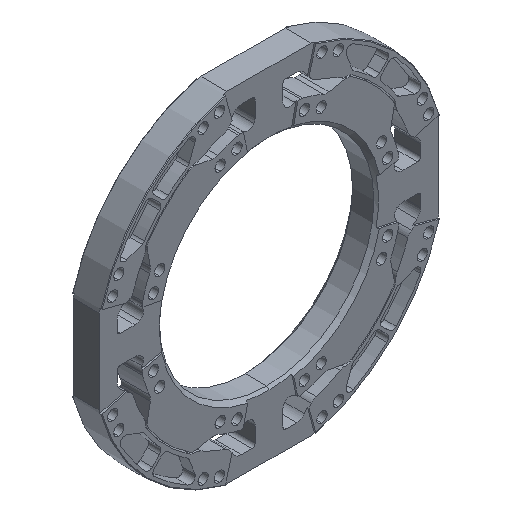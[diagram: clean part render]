
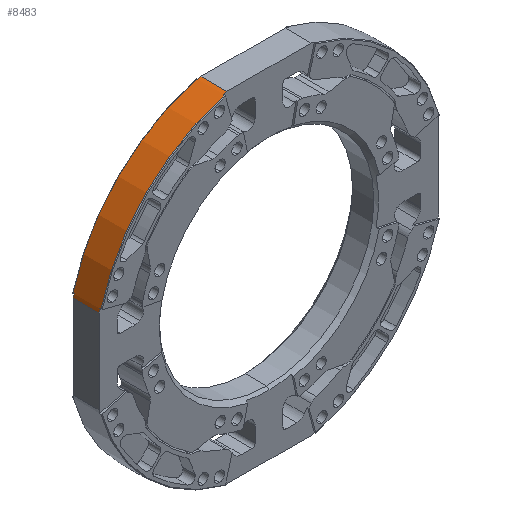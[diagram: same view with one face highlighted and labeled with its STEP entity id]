
A CAD part, isometric view. The second image highlights one B-rep face of the part: STEP entity #8483.
In plain terms, the highlighted cylindrical face has radius 136.843 mm (diameter 273.685 mm), a partial arc.
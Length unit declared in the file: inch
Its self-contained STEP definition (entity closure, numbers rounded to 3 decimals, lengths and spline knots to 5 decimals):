
#230 = EDGE_CURVE ( 'NONE', #1680, #5222, #15586, .T. ) ;
#355 = VERTEX_POINT ( 'NONE', #4550 ) ;
#647 = VECTOR ( 'NONE', #5046, 39.37008 ) ;
#918 = LINE ( 'NONE', #8887, #7667 ) ;
#1361 = DIRECTION ( 'NONE',  ( 0., -1., 0. ) ) ;
#1393 = EDGE_CURVE ( 'NONE', #355, #8562, #3419, .T. ) ;
#1463 = CARTESIAN_POINT ( 'NONE',  ( -5.20393, -0.4, 1.39439 ) ) ;
#1680 = VERTEX_POINT ( 'NONE', #2979 ) ;
#1818 = LINE ( 'NONE', #15151, #14067 ) ;
#2179 = CARTESIAN_POINT ( 'NONE',  ( -5.23, -0.4, 1.29316 ) ) ;
#2288 = FACE_OUTER_BOUND ( 'NONE', #13678, .T. ) ;
#2451 = VERTEX_POINT ( 'NONE', #15463 ) ;
#2626 = DIRECTION ( 'NONE',  ( 0., -1., 0. ) ) ;
#2772 = ORIENTED_EDGE ( 'NONE', *, *, #1393, .T. ) ;
#2875 = CARTESIAN_POINT ( 'NONE',  ( 0., 0., 0. ) ) ;
#2979 = CARTESIAN_POINT ( 'NONE',  ( -1.39439, 0.4, 5.20393 ) ) ;
#3062 = EDGE_CURVE ( 'NONE', #8899, #8741, #7721, .T. ) ;
#3244 = AXIS2_PLACEMENT_3D ( 'NONE', #5339, #12178, #17285 ) ;
#3419 = CIRCLE ( 'NONE', #3728, 5.3875 ) ;
#3461 = VERTEX_POINT ( 'NONE', #7616 ) ;
#3649 = AXIS2_PLACEMENT_3D ( 'NONE', #6803, #14777, #6988 ) ;
#3682 = CARTESIAN_POINT ( 'NONE',  ( -5.23, -0.45, 1.29316 ) ) ;
#3724 = CARTESIAN_POINT ( 'NONE',  ( 0., -0.43, 0. ) ) ;
#3728 = AXIS2_PLACEMENT_3D ( 'NONE', #9130, #3861, #6342 ) ;
#3861 = DIRECTION ( 'NONE',  ( 0., 1., 0. ) ) ;
#3898 = DIRECTION ( 'NONE',  ( 0., 0., -1. ) ) ;
#3993 = CIRCLE ( 'NONE', #6527, 5.3875 ) ;
#4011 = DIRECTION ( 'NONE',  ( 0., 0., -1. ) ) ;
#4208 = DIRECTION ( 'NONE',  ( 0., 0., -1. ) ) ;
#4307 = DIRECTION ( 'NONE',  ( 0., -1., 0. ) ) ;
#4438 = VERTEX_POINT ( 'NONE', #8071 ) ;
#4550 = CARTESIAN_POINT ( 'NONE',  ( -1.39439, -0.4, 5.20393 ) ) ;
#4583 = EDGE_CURVE ( 'NONE', #4956, #6486, #1818, .T. ) ;
#4820 = ORIENTED_EDGE ( 'NONE', *, *, #5767, .F. ) ;
#4956 = VERTEX_POINT ( 'NONE', #12680 ) ;
#4986 = ORIENTED_EDGE ( 'NONE', *, *, #11149, .T. ) ;
#5046 = DIRECTION ( 'NONE',  ( 0., 1., 0. ) ) ;
#5222 = VERTEX_POINT ( 'NONE', #5369 ) ;
#5261 = CARTESIAN_POINT ( 'NONE',  ( -1.29316, -0.4, 5.23 ) ) ;
#5339 = CARTESIAN_POINT ( 'NONE',  ( 0., 0.43, 0. ) ) ;
#5369 = CARTESIAN_POINT ( 'NONE',  ( -1.29316, 0.4, 5.23 ) ) ;
#5459 = VECTOR ( 'NONE', #14475, 39.37008 ) ;
#5767 = EDGE_CURVE ( 'NONE', #8741, #4956, #13849, .T. ) ;
#5822 = ORIENTED_EDGE ( 'NONE', *, *, #10495, .F. ) ;
#6186 = ORIENTED_EDGE ( 'NONE', *, *, #9419, .T. ) ;
#6342 = DIRECTION ( 'NONE',  ( 0., 0., -1. ) ) ;
#6380 = CARTESIAN_POINT ( 'NONE',  ( -1.29316, -0.45, 5.23 ) ) ;
#6457 = ORIENTED_EDGE ( 'NONE', *, *, #9646, .T. ) ;
#6486 = VERTEX_POINT ( 'NONE', #14243 ) ;
#6527 = AXIS2_PLACEMENT_3D ( 'NONE', #3724, #1361, #3898 ) ;
#6538 = LINE ( 'NONE', #6380, #647 ) ;
#6803 = CARTESIAN_POINT ( 'NONE',  ( 0., -0.4, 0. ) ) ;
#6988 = DIRECTION ( 'NONE',  ( 1., 0., 0. ) ) ;
#7313 = LINE ( 'NONE', #11243, #7406 ) ;
#7364 = DIRECTION ( 'NONE',  ( 1., 0., 0. ) ) ;
#7406 = VECTOR ( 'NONE', #4307, 39.37008 ) ;
#7616 = CARTESIAN_POINT ( 'NONE',  ( -5.20393, -0.4, 1.39439 ) ) ;
#7642 = CYLINDRICAL_SURFACE ( 'NONE', #9617, 5.3875 ) ;
#7667 = VECTOR ( 'NONE', #16608, 39.37008 ) ;
#7689 = ORIENTED_EDGE ( 'NONE', *, *, #4583, .F. ) ;
#7721 = LINE ( 'NONE', #3682, #5459 ) ;
#8071 = CARTESIAN_POINT ( 'NONE',  ( -1.39439, -0.43, 5.20393 ) ) ;
#8245 = CARTESIAN_POINT ( 'NONE',  ( 0., 0.4, 0. ) ) ;
#8483 = ADVANCED_FACE ( 'NONE', ( #2288 ), #7642, .T. ) ;
#8562 = VERTEX_POINT ( 'NONE', #5261 ) ;
#8581 = CARTESIAN_POINT ( 'NONE',  ( -5.23, 0.4, 1.29316 ) ) ;
#8741 = VERTEX_POINT ( 'NONE', #8581 ) ;
#8887 = CARTESIAN_POINT ( 'NONE',  ( -1.39439, 0.4, 5.20393 ) ) ;
#8899 = VERTEX_POINT ( 'NONE', #2179 ) ;
#8955 = VECTOR ( 'NONE', #16287, 39.37008 ) ;
#9130 = CARTESIAN_POINT ( 'NONE',  ( 0., -0.4, 0. ) ) ;
#9355 = EDGE_CURVE ( 'NONE', #4438, #9870, #3993, .T. ) ;
#9419 = EDGE_CURVE ( 'NONE', #8562, #5222, #6538, .T. ) ;
#9448 = ORIENTED_EDGE ( 'NONE', *, *, #230, .F. ) ;
#9617 = AXIS2_PLACEMENT_3D ( 'NONE', #2875, #2626, #4011 ) ;
#9646 = EDGE_CURVE ( 'NONE', #1680, #2451, #918, .T. ) ;
#9722 = DIRECTION ( 'NONE',  ( 0., 1., 0. ) ) ;
#9870 = VERTEX_POINT ( 'NONE', #12537 ) ;
#9991 = DIRECTION ( 'NONE',  ( 0., 1., 0. ) ) ;
#10495 = EDGE_CURVE ( 'NONE', #355, #4438, #7313, .T. ) ;
#11149 = EDGE_CURVE ( 'NONE', #2451, #6486, #12473, .T. ) ;
#11243 = CARTESIAN_POINT ( 'NONE',  ( -1.39439, -0.4, 5.20393 ) ) ;
#12178 = DIRECTION ( 'NONE',  ( 0., -1., 0. ) ) ;
#12321 = CIRCLE ( 'NONE', #3649, 5.3875 ) ;
#12473 = CIRCLE ( 'NONE', #3244, 5.3875 ) ;
#12537 = CARTESIAN_POINT ( 'NONE',  ( -5.20393, -0.43, 1.39439 ) ) ;
#12618 = ORIENTED_EDGE ( 'NONE', *, *, #3062, .F. ) ;
#12680 = CARTESIAN_POINT ( 'NONE',  ( -5.20393, 0.4, 1.39439 ) ) ;
#13397 = ORIENTED_EDGE ( 'NONE', *, *, #16841, .T. ) ;
#13668 = DIRECTION ( 'NONE',  ( 0., 1., 0. ) ) ;
#13678 = EDGE_LOOP ( 'NONE', ( #7689, #4820, #12618, #13993, #13397, #15251, #5822, #2772, #6186, #9448, #6457, #4986 ) ) ;
#13849 = CIRCLE ( 'NONE', #16944, 5.3875 ) ;
#13993 = ORIENTED_EDGE ( 'NONE', *, *, #17159, .T. ) ;
#14067 = VECTOR ( 'NONE', #13668, 39.37008 ) ;
#14243 = CARTESIAN_POINT ( 'NONE',  ( -5.20393, 0.43, 1.39439 ) ) ;
#14475 = DIRECTION ( 'NONE',  ( 0., 1., 0. ) ) ;
#14712 = LINE ( 'NONE', #1463, #8955 ) ;
#14777 = DIRECTION ( 'NONE',  ( 0., 1., 0. ) ) ;
#15001 = AXIS2_PLACEMENT_3D ( 'NONE', #8245, #9722, #4208 ) ;
#15151 = CARTESIAN_POINT ( 'NONE',  ( -5.20393, 0.4, 1.39439 ) ) ;
#15251 = ORIENTED_EDGE ( 'NONE', *, *, #9355, .F. ) ;
#15463 = CARTESIAN_POINT ( 'NONE',  ( -1.39439, 0.43, 5.20393 ) ) ;
#15586 = CIRCLE ( 'NONE', #15001, 5.3875 ) ;
#16287 = DIRECTION ( 'NONE',  ( 0., -1., 0. ) ) ;
#16608 = DIRECTION ( 'NONE',  ( 0., 1., 0. ) ) ;
#16663 = CARTESIAN_POINT ( 'NONE',  ( 0., 0.4, 0. ) ) ;
#16841 = EDGE_CURVE ( 'NONE', #3461, #9870, #14712, .T. ) ;
#16944 = AXIS2_PLACEMENT_3D ( 'NONE', #16663, #9991, #7364 ) ;
#17159 = EDGE_CURVE ( 'NONE', #8899, #3461, #12321, .T. ) ;
#17285 = DIRECTION ( 'NONE',  ( 0., 0., -1. ) ) ;
